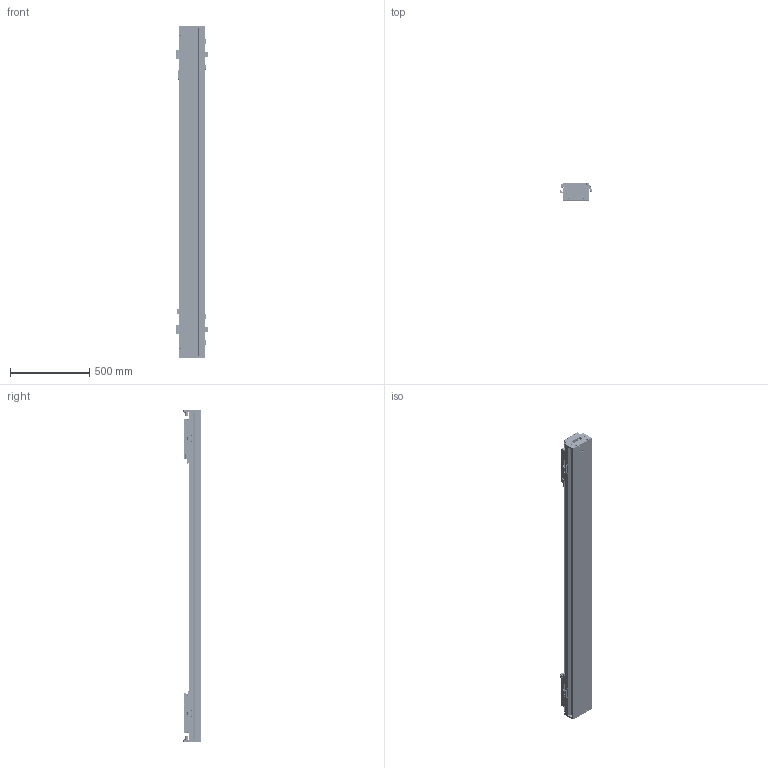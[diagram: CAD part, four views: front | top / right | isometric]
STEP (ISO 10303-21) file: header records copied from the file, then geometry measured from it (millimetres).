
FILE_DESCRIPTION (( 'STEP AP203' ), '1' );
FILE_NAME ('DKW168-2×C3-W090（T1460-L005-0.2）.STEP', '2022-03-08T05:49:54', ( '微软用户' ), ( '微软中国' ), 'SwSTEP 2.0', 'SolidWorks 2018', '' );
FILE_SCHEMA (( 'CONFIG_CONTROL_DESIGN' ));
Length unit declared in the file: millimetre
Products named in the file (28): RUS嫖掑喜; DKW168-HXJ-00 遣喳砎蝶; DKW-KGZ-ZJ-00 中间光电开关支架; DKW168-C3-W090-HTB-04 C3-W090賑怢啣; Ru2; 10392-0001-002-00 詩湍裔啣; EE_SX674A; MSB20S1FC; pm-y65; 10392-0001-003-00 詩湍嶺輸; DKW168-2×C3-W090（T1460-L005-0.2）; CKM03-W090-C1C2-TP-0.2 珨极萇儂; 10980-0001-003-00 嫖萇羲壽嘐隅釱; 10392-0001-004-00 詩湍揤輸; DKW168-HYB-00 賑輸揤啣; 嫖萇羲壽蚾饜极; 10279-0001-006-00 嶺輸菜輸; C3-W090; DKW-SG-GYP-H-00 嫖萇覜茼え; DKW168 单轴模组-拉钢带组件; 10392-0001-001-00 菁釱; 嫖萇羲壽蚾饜极A; CKM01-W090-TRL280; MSA20絳寢; DKW168-HXJ-ZJ-00 笢潔滅袉砎蝶; DKW168-RU-DTJ-00 RU2黍杅芛盓殤; 10279-0001-003-00 傷啣; DKW-GYP-ZJ-00 笢潔嫖萇覜茼え
Assembly tree (47 placements, depth 3):
  DKW168-2×C3-W090（T1460-L005-0.2）
    C3-W090  x2
      DKW168-C3-W090-HTB-04 C3-W090賑怢啣
      MSB20S1FC
      CKM03-W090-C1C2-TP-0.2 珨极萇儂
      DKW168-HYB-00 賑輸揤啣
    10392-0001-001-00 菁釱
    MSA20絳寢  x2
    DKW168 单轴模组-拉钢带组件
      10279-0001-003-00 傷啣  x2
      DKW168-HXJ-00 遣喳砎蝶  x4
      10392-0001-002-00 詩湍裔啣
      10392-0001-003-00 詩湍嶺輸  x2
      10392-0001-004-00 詩湍揤輸  x2
      10279-0001-006-00 嶺輸菜輸  x2
    CKM01-W090-TRL280
    DKW168-RU-DTJ-00 RU2黍杅芛盓殤  x2
    RUS嫖掑喜
    Ru2  x2
    嫖萇羲壽蚾饜极
      pm-y65  x2
      10980-0001-003-00 嫖萇羲壽嘐隅釱
    DKW-SG-GYP-H-00 嫖萇覜茼え  x2
    嫖萇羲壽蚾饜极A
      pm-y65  x2
      10980-0001-003-00 嫖萇羲壽嘐隅釱
    DKW168-HXJ-ZJ-00 笢潔滅袉砎蝶
    DKW-GYP-ZJ-00 笢潔嫖萇覜茼え
    DKW-KGZ-ZJ-00 中间光电开关支架
    EE_SX674A
Bounding box: 202.1 x 109 x 2100 mm (x, y, z)
Volume: 15617427.8 mm3; surface area: 4019159.6 mm2
Topology: 74 solids, 172 shells, 7830 faces, 20358 edges, 12955 vertices
Faces by surface type: plane 4092, cylinder 2264, cone 852, bspline 558, torus 32, sphere 32
Entity records: 125193 total; most frequent: CARTESIAN_POINT 41568, ORIENTED_EDGE 16725, DIRECTION 15998, EDGE_CURVE 8403, VERTEX_POINT 5478, AXIS2_PLACEMENT_3D 5425, VECTOR 5148, LINE 5148
